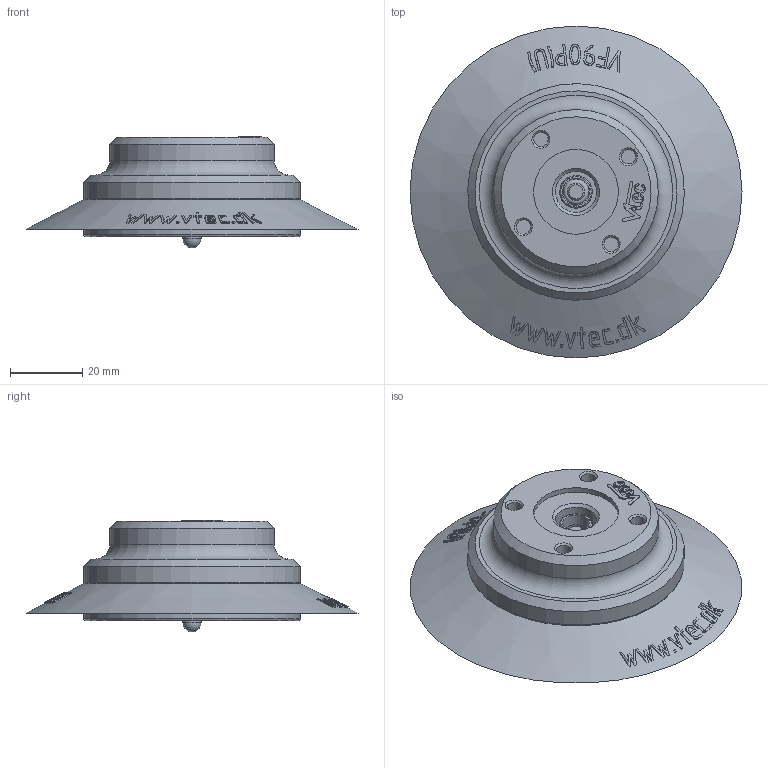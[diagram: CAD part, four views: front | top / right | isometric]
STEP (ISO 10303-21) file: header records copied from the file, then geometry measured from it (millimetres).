
FILE_DESCRIPTION( ( 'Unknown' ), '1' );
FILE_NAME( 'C:/Documents and Settings/owner/官帕 拳搁/MISUMI/PAD/VF/VF90-PU-14FA-BV.stp', 'Unknown', ( 'Unknown' ), ( 'Unknown' ), 'XStep 1.0', 'Unknown', ' ' );
FILE_SCHEMA( ( 'automotive_design' ) );
Length unit declared in the file: millimetre
Products named in the file (5): Assem1; 1_4; 2_4; VF75 BV
Bounding box: 92 x 92 x 31 mm (x, y, z)
Volume: 103976.2 mm3; surface area: 57027.2 mm2
Topology: 8 solids, 8 shells, 1308 faces, 3514 edges, 2322 vertices
Faces by surface type: plane 728, cylinder 320, bspline 128, cone 80, extrusion 40, torus 10, sphere 2
Full cylindrical faces by diameter (mm): 0.791 x2, 4 x16, 4.9 x2, 5 x2, 6.4 x8, 7.5 x2, 9 x2, 10.5 x2, 11 x2, 11.4 x2, 15 x4, 23.5 x2, 25 x2, 45.6 x2, 55 x4, 60 x2
Entity records: 31097 total; most frequent: CARTESIAN_POINT 11178, ORIENTED_EDGE 3368, DIRECTION 2943, EDGE_CURVE 1684, VERTEX_POINT 1140, AXIS2_PLACEMENT_3D 983, VECTOR 977, LINE 957
